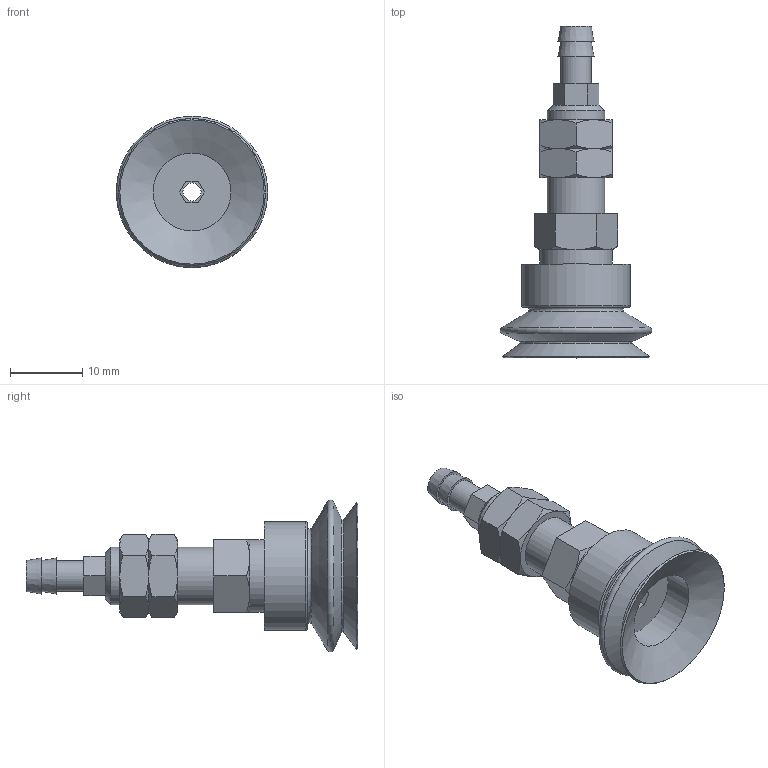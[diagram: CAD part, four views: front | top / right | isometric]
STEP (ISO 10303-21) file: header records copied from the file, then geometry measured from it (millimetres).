
FILE_DESCRIPTION(('STEP AP203'),'1');
FILE_NAME('.stp','2025-04-23T02:30:54',(' '),(' '),'Spatial InterOp 3D',' ',' ');
FILE_SCHEMA(('CONFIG_CONTROL_DESIGN'));
Length unit declared in the file: millimetre
Products named in the file (5): BBPJTK-20-※; NUT-20-PJ_K; Adapter-20-PJ; PJTK-20; BPJG-20-※
Assembly tree (5 placements, depth 2):
  BBPJTK-20-※
    NUT-20-PJ_K  x2
    Adapter-20-PJ
    PJTK-20
    BPJG-20-※
Bounding box: 21 x 46 x 21 mm (x, y, z)
Volume: 3584.4 mm3; surface area: 4138.5 mm2
Topology: 5 solids, 5 shells, 114 faces, 241 edges, 146 vertices
Faces by surface type: plane 49, cone 45, cylinder 13, torus 7
Full cylindrical faces by diameter (mm): 2.5 x1, 3 x1, 4.134 x1, 4.26 x1, 4.6 x1, 5 x1, 6.647 x2, 8 x1, 10 x1, 10.8 x1, 11 x1, 15 x1
Entity records: 2712 total; most frequent: CARTESIAN_POINT 685, DIRECTION 374, ORIENTED_EDGE 306, AXIS2_PLACEMENT_3D 160, EDGE_CURVE 153, EDGE_LOOP 140, VERTEX_POINT 111, FACE_OUTER_BOUND 110
